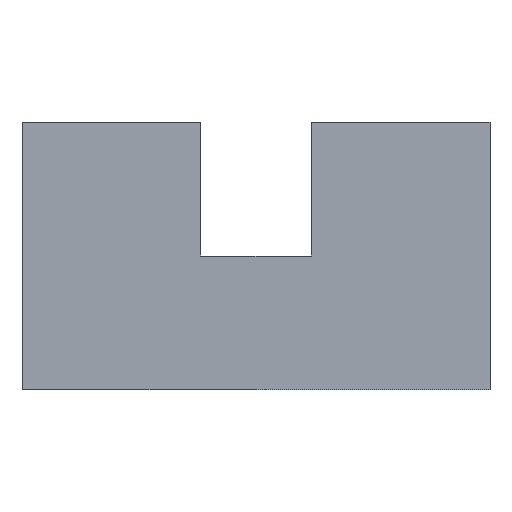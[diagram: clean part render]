
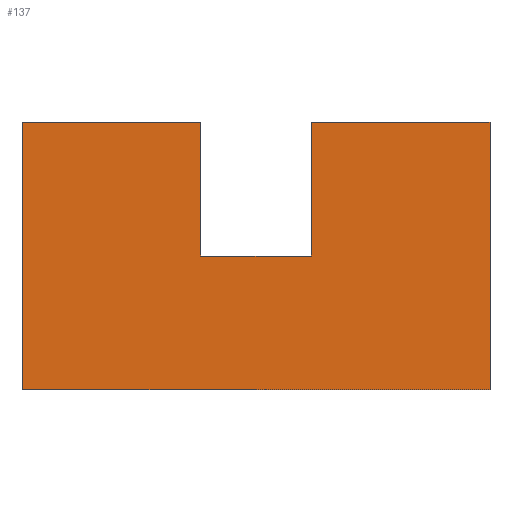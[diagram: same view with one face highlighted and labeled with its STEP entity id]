
A CAD part, front view. The second image highlights one B-rep face of the part: STEP entity #137.
In plain terms, the highlighted planar face has unit normal (0, -1, 0).
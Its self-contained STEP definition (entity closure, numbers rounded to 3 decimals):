
#21 = EDGE_CURVE('',#22,#24,#26,.T.);
#22 = VERTEX_POINT('',#23);
#23 = CARTESIAN_POINT('',(138.,74.,-169.));
#24 = VERTEX_POINT('',#25);
#25 = CARTESIAN_POINT('',(138.,74.,-161.));
#26 = SURFACE_CURVE('',#27,(#31,#43),.PCURVE_S1.);
#27 = LINE('',#28,#29);
#28 = CARTESIAN_POINT('',(138.,74.,-169.));
#29 = VECTOR('',#30,1.);
#30 = DIRECTION('',(0.,0.,1.));
#31 = PCURVE('',#32,#37);
#32 = PLANE('',#33);
#33 = AXIS2_PLACEMENT_3D('',#34,#35,#36);
#34 = CARTESIAN_POINT('',(138.,74.,-169.));
#35 = DIRECTION('',(1.,0.,0.));
#36 = DIRECTION('',(0.,0.,1.));
#37 = DEFINITIONAL_REPRESENTATION('',(#38),#42);
#38 = LINE('',#39,#40);
#39 = CARTESIAN_POINT('',(0.,0.));
#40 = VECTOR('',#41,1.);
#41 = DIRECTION('',(1.,0.));
#42 = ( GEOMETRIC_REPRESENTATION_CONTEXT(2) 
PARAMETRIC_REPRESENTATION_CONTEXT() REPRESENTATION_CONTEXT('2D SPACE',''
  ) );
#43 = PCURVE('',#44,#49);
#44 = PLANE('',#45);
#45 = AXIS2_PLACEMENT_3D('',#46,#47,#48);
#46 = CARTESIAN_POINT('',(138.,74.,-169.));
#47 = DIRECTION('',(0.,1.,0.));
#48 = DIRECTION('',(0.,0.,1.));
#49 = DEFINITIONAL_REPRESENTATION('',(#50),#54);
#50 = LINE('',#51,#52);
#51 = CARTESIAN_POINT('',(0.,0.));
#52 = VECTOR('',#53,1.);
#53 = DIRECTION('',(1.,0.));
#54 = ( GEOMETRIC_REPRESENTATION_CONTEXT(2) 
PARAMETRIC_REPRESENTATION_CONTEXT() REPRESENTATION_CONTEXT('2D SPACE',''
  ) );
#72 = PLANE('',#73);
#73 = AXIS2_PLACEMENT_3D('',#74,#75,#76);
#74 = CARTESIAN_POINT('',(138.,74.,-169.));
#75 = DIRECTION('',(0.,0.,1.));
#76 = DIRECTION('',(1.,0.,0.));
#126 = PLANE('',#127);
#127 = AXIS2_PLACEMENT_3D('',#128,#129,#130);
#128 = CARTESIAN_POINT('',(138.,74.,-161.));
#129 = DIRECTION('',(0.,0.,1.));
#130 = DIRECTION('',(1.,0.,0.));
#137 = ADVANCED_FACE('',(#138),#44,.F.);
#138 = FACE_BOUND('',#139,.F.);
#139 = EDGE_LOOP('',(#140,#170,#191,#192,#215,#241,#267,#293));
#140 = ORIENTED_EDGE('',*,*,#141,.F.);
#141 = EDGE_CURVE('',#142,#144,#146,.T.);
#142 = VERTEX_POINT('',#143);
#143 = CARTESIAN_POINT('',(152.,74.,-169.));
#144 = VERTEX_POINT('',#145);
#145 = CARTESIAN_POINT('',(152.,74.,-161.));
#146 = SURFACE_CURVE('',#147,(#151,#158),.PCURVE_S1.);
#147 = LINE('',#148,#149);
#148 = CARTESIAN_POINT('',(152.,74.,-169.));
#149 = VECTOR('',#150,1.);
#150 = DIRECTION('',(0.,0.,1.));
#151 = PCURVE('',#44,#152);
#152 = DEFINITIONAL_REPRESENTATION('',(#153),#157);
#153 = LINE('',#154,#155);
#154 = CARTESIAN_POINT('',(0.,14.));
#155 = VECTOR('',#156,1.);
#156 = DIRECTION('',(1.,0.));
#157 = ( GEOMETRIC_REPRESENTATION_CONTEXT(2) 
PARAMETRIC_REPRESENTATION_CONTEXT() REPRESENTATION_CONTEXT('2D SPACE',''
  ) );
#158 = PCURVE('',#159,#164);
#159 = PLANE('',#160);
#160 = AXIS2_PLACEMENT_3D('',#161,#162,#163);
#161 = CARTESIAN_POINT('',(152.,74.,-169.));
#162 = DIRECTION('',(1.,0.,0.));
#163 = DIRECTION('',(0.,0.,1.));
#164 = DEFINITIONAL_REPRESENTATION('',(#165),#169);
#165 = LINE('',#166,#167);
#166 = CARTESIAN_POINT('',(0.,0.));
#167 = VECTOR('',#168,1.);
#168 = DIRECTION('',(1.,0.));
#169 = ( GEOMETRIC_REPRESENTATION_CONTEXT(2) 
PARAMETRIC_REPRESENTATION_CONTEXT() REPRESENTATION_CONTEXT('2D SPACE',''
  ) );
#170 = ORIENTED_EDGE('',*,*,#171,.F.);
#171 = EDGE_CURVE('',#22,#142,#172,.T.);
#172 = SURFACE_CURVE('',#173,(#177,#184),.PCURVE_S1.);
#173 = LINE('',#174,#175);
#174 = CARTESIAN_POINT('',(138.,74.,-169.));
#175 = VECTOR('',#176,1.);
#176 = DIRECTION('',(1.,0.,0.));
#177 = PCURVE('',#44,#178);
#178 = DEFINITIONAL_REPRESENTATION('',(#179),#183);
#179 = LINE('',#180,#181);
#180 = CARTESIAN_POINT('',(0.,0.));
#181 = VECTOR('',#182,1.);
#182 = DIRECTION('',(0.,1.));
#183 = ( GEOMETRIC_REPRESENTATION_CONTEXT(2) 
PARAMETRIC_REPRESENTATION_CONTEXT() REPRESENTATION_CONTEXT('2D SPACE',''
  ) );
#184 = PCURVE('',#72,#185);
#185 = DEFINITIONAL_REPRESENTATION('',(#186),#190);
#186 = LINE('',#187,#188);
#187 = CARTESIAN_POINT('',(0.,0.));
#188 = VECTOR('',#189,1.);
#189 = DIRECTION('',(1.,0.));
#190 = ( GEOMETRIC_REPRESENTATION_CONTEXT(2) 
PARAMETRIC_REPRESENTATION_CONTEXT() REPRESENTATION_CONTEXT('2D SPACE',''
  ) );
#191 = ORIENTED_EDGE('',*,*,#21,.T.);
#192 = ORIENTED_EDGE('',*,*,#193,.T.);
#193 = EDGE_CURVE('',#24,#194,#196,.T.);
#194 = VERTEX_POINT('',#195);
#195 = CARTESIAN_POINT('',(143.35,74.,-161.));
#196 = SURFACE_CURVE('',#197,(#201,#208),.PCURVE_S1.);
#197 = LINE('',#198,#199);
#198 = CARTESIAN_POINT('',(138.,74.,-161.));
#199 = VECTOR('',#200,1.);
#200 = DIRECTION('',(1.,0.,0.));
#201 = PCURVE('',#44,#202);
#202 = DEFINITIONAL_REPRESENTATION('',(#203),#207);
#203 = LINE('',#204,#205);
#204 = CARTESIAN_POINT('',(8.,0.));
#205 = VECTOR('',#206,1.);
#206 = DIRECTION('',(0.,1.));
#207 = ( GEOMETRIC_REPRESENTATION_CONTEXT(2) 
PARAMETRIC_REPRESENTATION_CONTEXT() REPRESENTATION_CONTEXT('2D SPACE',''
  ) );
#208 = PCURVE('',#126,#209);
#209 = DEFINITIONAL_REPRESENTATION('',(#210),#214);
#210 = LINE('',#211,#212);
#211 = CARTESIAN_POINT('',(0.,0.));
#212 = VECTOR('',#213,1.);
#213 = DIRECTION('',(1.,0.));
#214 = ( GEOMETRIC_REPRESENTATION_CONTEXT(2) 
PARAMETRIC_REPRESENTATION_CONTEXT() REPRESENTATION_CONTEXT('2D SPACE',''
  ) );
#215 = ORIENTED_EDGE('',*,*,#216,.T.);
#216 = EDGE_CURVE('',#194,#217,#219,.T.);
#217 = VERTEX_POINT('',#218);
#218 = CARTESIAN_POINT('',(143.35,74.,-165.));
#219 = SURFACE_CURVE('',#220,(#224,#230),.PCURVE_S1.);
#220 = LINE('',#221,#222);
#221 = CARTESIAN_POINT('',(143.35,74.,-167.));
#222 = VECTOR('',#223,1.);
#223 = DIRECTION('',(0.,0.,-1.));
#224 = PCURVE('',#44,#225);
#225 = DEFINITIONAL_REPRESENTATION('',(#226),#229);
#226 = B_SPLINE_CURVE_WITH_KNOTS('',1,(#227,#228),.UNSPECIFIED.,.F.,.F.,
  (2,2),(-6.,-2.),.PIECEWISE_BEZIER_KNOTS.);
#227 = CARTESIAN_POINT('',(8.,5.35));
#228 = CARTESIAN_POINT('',(4.,5.35));
#229 = ( GEOMETRIC_REPRESENTATION_CONTEXT(2) 
PARAMETRIC_REPRESENTATION_CONTEXT() REPRESENTATION_CONTEXT('2D SPACE',''
  ) );
#230 = PCURVE('',#231,#236);
#231 = PLANE('',#232);
#232 = AXIS2_PLACEMENT_3D('',#233,#234,#235);
#233 = CARTESIAN_POINT('',(143.35,73.,-165.));
#234 = DIRECTION('',(1.,0.,0.));
#235 = DIRECTION('',(0.,0.,1.));
#236 = DEFINITIONAL_REPRESENTATION('',(#237),#240);
#237 = B_SPLINE_CURVE_WITH_KNOTS('',1,(#238,#239),.UNSPECIFIED.,.F.,.F.,
  (2,2),(-6.,-2.),.PIECEWISE_BEZIER_KNOTS.);
#238 = CARTESIAN_POINT('',(4.,-1.));
#239 = CARTESIAN_POINT('',(0.,-1.));
#240 = ( GEOMETRIC_REPRESENTATION_CONTEXT(2) 
PARAMETRIC_REPRESENTATION_CONTEXT() REPRESENTATION_CONTEXT('2D SPACE',''
  ) );
#241 = ORIENTED_EDGE('',*,*,#242,.T.);
#242 = EDGE_CURVE('',#217,#243,#245,.T.);
#243 = VERTEX_POINT('',#244);
#244 = CARTESIAN_POINT('',(146.65,74.,-165.));
#245 = SURFACE_CURVE('',#246,(#250,#256),.PCURVE_S1.);
#246 = LINE('',#247,#248);
#247 = CARTESIAN_POINT('',(140.675,74.,-165.));
#248 = VECTOR('',#249,1.);
#249 = DIRECTION('',(1.,0.,0.));
#250 = PCURVE('',#44,#251);
#251 = DEFINITIONAL_REPRESENTATION('',(#252),#255);
#252 = B_SPLINE_CURVE_WITH_KNOTS('',1,(#253,#254),.UNSPECIFIED.,.F.,.F.,
  (2,2),(2.675,5.975),.PIECEWISE_BEZIER_KNOTS.);
#253 = CARTESIAN_POINT('',(4.,5.35));
#254 = CARTESIAN_POINT('',(4.,8.65));
#255 = ( GEOMETRIC_REPRESENTATION_CONTEXT(2) 
PARAMETRIC_REPRESENTATION_CONTEXT() REPRESENTATION_CONTEXT('2D SPACE',''
  ) );
#256 = PCURVE('',#257,#262);
#257 = PLANE('',#258);
#258 = AXIS2_PLACEMENT_3D('',#259,#260,#261);
#259 = CARTESIAN_POINT('',(143.35,73.,-165.));
#260 = DIRECTION('',(0.,0.,1.));
#261 = DIRECTION('',(1.,0.,0.));
#262 = DEFINITIONAL_REPRESENTATION('',(#263),#266);
#263 = B_SPLINE_CURVE_WITH_KNOTS('',1,(#264,#265),.UNSPECIFIED.,.F.,.F.,
  (2,2),(2.675,5.975),.PIECEWISE_BEZIER_KNOTS.);
#264 = CARTESIAN_POINT('',(0.,1.));
#265 = CARTESIAN_POINT('',(3.3,1.));
#266 = ( GEOMETRIC_REPRESENTATION_CONTEXT(2) 
PARAMETRIC_REPRESENTATION_CONTEXT() REPRESENTATION_CONTEXT('2D SPACE',''
  ) );
#267 = ORIENTED_EDGE('',*,*,#268,.F.);
#268 = EDGE_CURVE('',#269,#243,#271,.T.);
#269 = VERTEX_POINT('',#270);
#270 = CARTESIAN_POINT('',(146.65,74.,-161.));
#271 = SURFACE_CURVE('',#272,(#276,#282),.PCURVE_S1.);
#272 = LINE('',#273,#274);
#273 = CARTESIAN_POINT('',(146.65,74.,-167.));
#274 = VECTOR('',#275,1.);
#275 = DIRECTION('',(0.,0.,-1.));
#276 = PCURVE('',#44,#277);
#277 = DEFINITIONAL_REPRESENTATION('',(#278),#281);
#278 = B_SPLINE_CURVE_WITH_KNOTS('',1,(#279,#280),.UNSPECIFIED.,.F.,.F.,
  (2,2),(-6.,-2.),.PIECEWISE_BEZIER_KNOTS.);
#279 = CARTESIAN_POINT('',(8.,8.65));
#280 = CARTESIAN_POINT('',(4.,8.65));
#281 = ( GEOMETRIC_REPRESENTATION_CONTEXT(2) 
PARAMETRIC_REPRESENTATION_CONTEXT() REPRESENTATION_CONTEXT('2D SPACE',''
  ) );
#282 = PCURVE('',#283,#288);
#283 = PLANE('',#284);
#284 = AXIS2_PLACEMENT_3D('',#285,#286,#287);
#285 = CARTESIAN_POINT('',(146.65,73.,-165.));
#286 = DIRECTION('',(1.,0.,0.));
#287 = DIRECTION('',(0.,0.,1.));
#288 = DEFINITIONAL_REPRESENTATION('',(#289),#292);
#289 = B_SPLINE_CURVE_WITH_KNOTS('',1,(#290,#291),.UNSPECIFIED.,.F.,.F.,
  (2,2),(-6.,-2.),.PIECEWISE_BEZIER_KNOTS.);
#290 = CARTESIAN_POINT('',(4.,-1.));
#291 = CARTESIAN_POINT('',(0.,-1.));
#292 = ( GEOMETRIC_REPRESENTATION_CONTEXT(2) 
PARAMETRIC_REPRESENTATION_CONTEXT() REPRESENTATION_CONTEXT('2D SPACE',''
  ) );
#293 = ORIENTED_EDGE('',*,*,#294,.T.);
#294 = EDGE_CURVE('',#269,#144,#295,.T.);
#295 = SURFACE_CURVE('',#296,(#300,#307),.PCURVE_S1.);
#296 = LINE('',#297,#298);
#297 = CARTESIAN_POINT('',(138.,74.,-161.));
#298 = VECTOR('',#299,1.);
#299 = DIRECTION('',(1.,0.,0.));
#300 = PCURVE('',#44,#301);
#301 = DEFINITIONAL_REPRESENTATION('',(#302),#306);
#302 = LINE('',#303,#304);
#303 = CARTESIAN_POINT('',(8.,0.));
#304 = VECTOR('',#305,1.);
#305 = DIRECTION('',(0.,1.));
#306 = ( GEOMETRIC_REPRESENTATION_CONTEXT(2) 
PARAMETRIC_REPRESENTATION_CONTEXT() REPRESENTATION_CONTEXT('2D SPACE',''
  ) );
#307 = PCURVE('',#308,#313);
#308 = PLANE('',#309);
#309 = AXIS2_PLACEMENT_3D('',#310,#311,#312);
#310 = CARTESIAN_POINT('',(138.,74.,-161.));
#311 = DIRECTION('',(0.,0.,1.));
#312 = DIRECTION('',(1.,0.,0.));
#313 = DEFINITIONAL_REPRESENTATION('',(#314),#318);
#314 = LINE('',#315,#316);
#315 = CARTESIAN_POINT('',(0.,0.));
#316 = VECTOR('',#317,1.);
#317 = DIRECTION('',(1.,0.));
#318 = ( GEOMETRIC_REPRESENTATION_CONTEXT(2) 
PARAMETRIC_REPRESENTATION_CONTEXT() REPRESENTATION_CONTEXT('2D SPACE',''
  ) );
